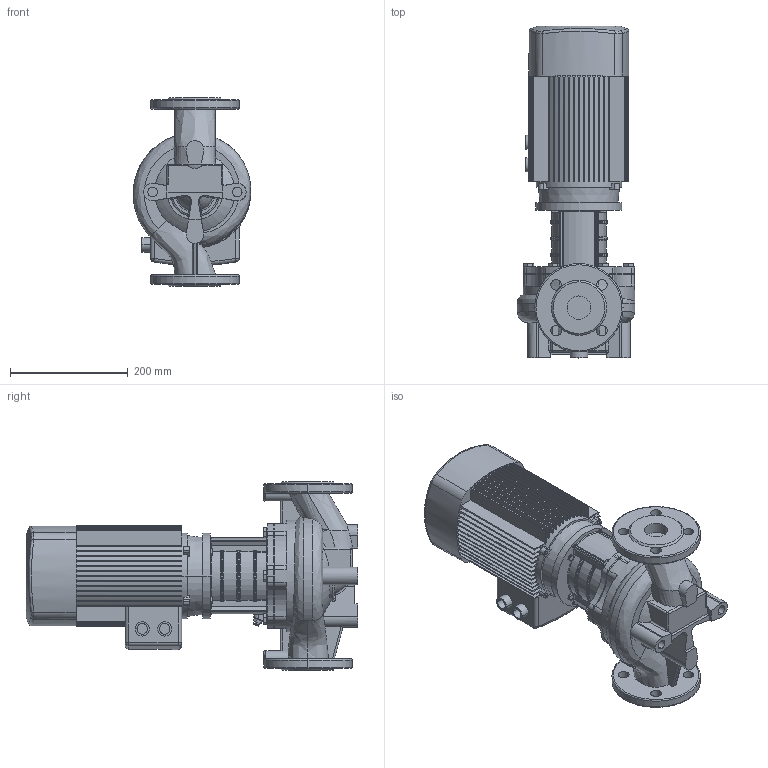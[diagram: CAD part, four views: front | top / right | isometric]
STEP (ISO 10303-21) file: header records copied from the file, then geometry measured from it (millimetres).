
FILE_DESCRIPTION (( 'STEP AP203' ), '1' );
FILE_NAME ('TD40-20G／2.STEP', '2026-09-07T01:50:55', ( '' ), ( '' ), 'SwSTEP 2.0', 'SolidWorks 2020', '' );
FILE_SCHEMA (( 'CONFIG_CONTROL_DESIGN' ));
Length unit declared in the file: millimetre
Products named in the file (1): TD40-20Gㄞ2
Bounding box: 200 x 564 x 320 mm (x, y, z)
Volume: 12144766.8 mm3; surface area: 813476.4 mm2
Topology: 1 solids, 14 shells, 1224 faces, 3153 edges, 1937 vertices
Faces by surface type: plane 521, cylinder 359, cone 123, torus 119, sphere 54, bspline 48
Entity records: 47896 total; most frequent: CARTESIAN_POINT 18349, DIRECTION 6320, ORIENTED_EDGE 6210, EDGE_CURVE 3105, AXIS2_PLACEMENT_3D 2488, VERTEX_POINT 1929, VECTOR 1344, LINE 1344
